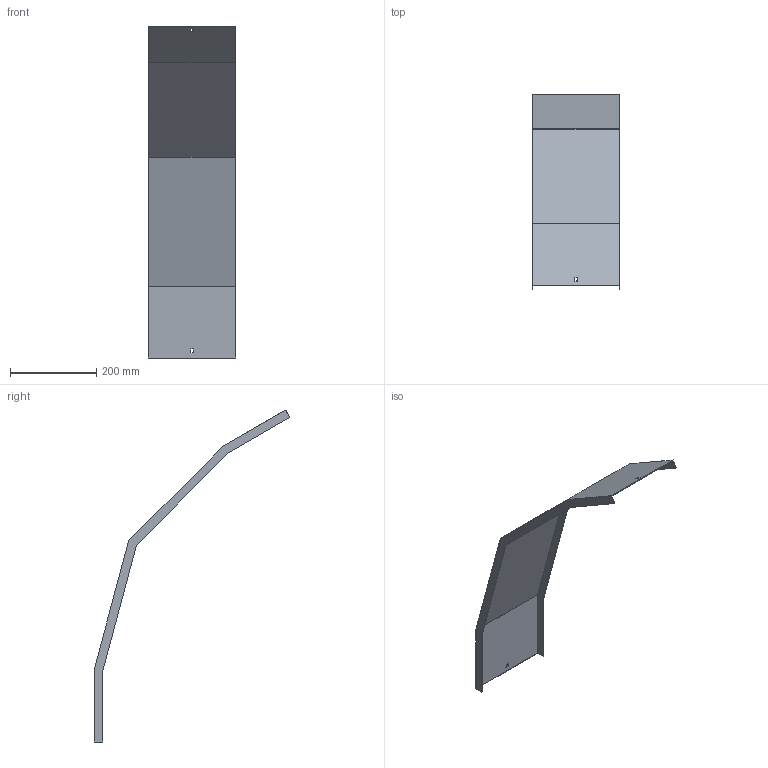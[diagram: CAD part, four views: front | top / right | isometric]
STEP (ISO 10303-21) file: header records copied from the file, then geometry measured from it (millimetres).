
FILE_DESCRIPTION (( 'STEP AP214' ), '1' );
FILE_NAME ('41N5J200.step', '2025-02-21T10:38:35', ( '' ), ( '' ), 'SwSTEP 2.0', 'SolidWorks 2023', '' );
FILE_SCHEMA (( 'AUTOMOTIVE_DESIGN' ));
Length unit declared in the file: millimetre
Products named in the file (1): 41N5J200
Bounding box: 203 x 454.7 x 770.25 mm (x, y, z)
Volume: 342838 mm3; surface area: 460734.7 mm2
Topology: 1 solids, 1 shells, 30 faces, 84 edges, 56 vertices
Faces by surface type: plane 30
Entity records: 979 total; most frequent: CARTESIAN_POINT 171, ORIENTED_EDGE 168, DIRECTION 146, VECTOR 84, EDGE_CURVE 84, LINE 84, VERTEX_POINT 56, EDGE_LOOP 34
